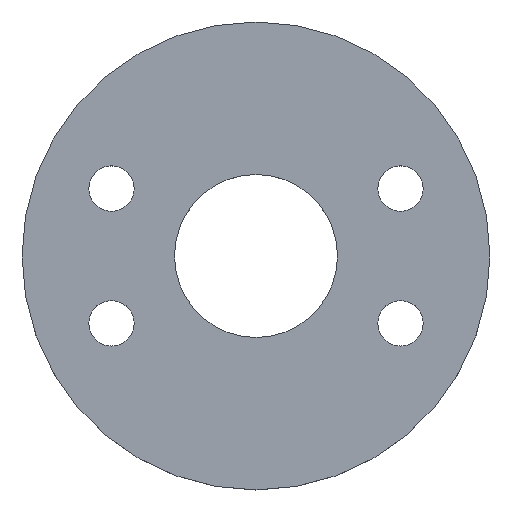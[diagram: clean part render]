
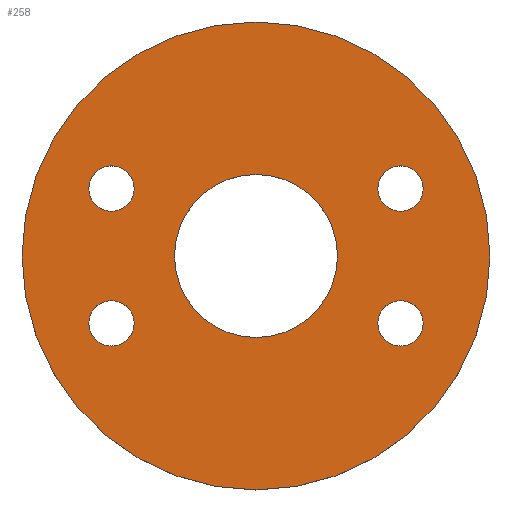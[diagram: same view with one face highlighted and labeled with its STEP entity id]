
A CAD part, top view. The second image highlights one B-rep face of the part: STEP entity #258.
In plain terms, the highlighted planar face has unit normal (0, 0, 1).
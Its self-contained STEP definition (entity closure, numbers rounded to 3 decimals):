
#2 = CARTESIAN_POINT ( 'NONE',  ( 143.664, -57.899, 15. ) ) ;
#4 = EDGE_LOOP ( 'NONE', ( #247, #315 ) ) ;
#14 = CIRCLE ( 'NONE', #201, 19.5 ) ;
#27 = ORIENTED_EDGE ( 'NONE', *, *, #439, .F. ) ;
#33 = VERTEX_POINT ( 'NONE', #350 ) ;
#35 = VERTEX_POINT ( 'NONE', #353 ) ;
#40 = CARTESIAN_POINT ( 'NONE',  ( 104.664, 57.899, 15. ) ) ;
#44 = VERTEX_POINT ( 'NONE', #197 ) ;
#52 = CARTESIAN_POINT ( 'NONE',  ( -124.164, 57.899, 15. ) ) ;
#56 = DIRECTION ( 'NONE',  ( 0., 0., 1. ) ) ;
#58 = DIRECTION ( 'NONE',  ( -1., 0., 0. ) ) ;
#61 = CARTESIAN_POINT ( 'NONE',  ( 124.164, 57.899, 15. ) ) ;
#62 = DIRECTION ( 'NONE',  ( 0., 0., 1. ) ) ;
#70 = CARTESIAN_POINT ( 'NONE',  ( 0., 0., 15. ) ) ;
#71 = CARTESIAN_POINT ( 'NONE',  ( -124.164, -57.899, 15. ) ) ;
#73 = DIRECTION ( 'NONE',  ( 1., 0., 0. ) ) ;
#85 = VERTEX_POINT ( 'NONE', #40 ) ;
#95 = CIRCLE ( 'NONE', #380, 19.5 ) ;
#98 = CIRCLE ( 'NONE', #338, 201. ) ;
#103 = CIRCLE ( 'NONE', #243, 19.5 ) ;
#115 = DIRECTION ( 'NONE',  ( 1., 0., 0. ) ) ;
#117 = CARTESIAN_POINT ( 'NONE',  ( 104.664, -57.899, 15. ) ) ;
#121 = DIRECTION ( 'NONE',  ( 0., 0., 1. ) ) ;
#125 = FACE_BOUND ( 'NONE', #395, .T. ) ;
#126 = CARTESIAN_POINT ( 'NONE',  ( -201., 0., 15. ) ) ;
#128 = AXIS2_PLACEMENT_3D ( 'NONE', #383, #279, #252 ) ;
#131 = FACE_BOUND ( 'NONE', #443, .T. ) ;
#141 = VERTEX_POINT ( 'NONE', #2 ) ;
#148 = ORIENTED_EDGE ( 'NONE', *, *, #313, .F. ) ;
#152 = DIRECTION ( 'NONE',  ( -1., 0., 0. ) ) ;
#153 = FACE_BOUND ( 'NONE', #503, .T. ) ;
#164 = CIRCLE ( 'NONE', #266, 19.5 ) ;
#168 = EDGE_CURVE ( 'NONE', #377, #420, #514, .T. ) ;
#172 = AXIS2_PLACEMENT_3D ( 'NONE', #189, #477, #152 ) ;
#178 = ORIENTED_EDGE ( 'NONE', *, *, #302, .F. ) ;
#182 = CIRCLE ( 'NONE', #466, 70. ) ;
#187 = ORIENTED_EDGE ( 'NONE', *, *, #223, .F. ) ;
#188 = DIRECTION ( 'NONE',  ( 0., 0., 1. ) ) ;
#189 = CARTESIAN_POINT ( 'NONE',  ( 124.164, -57.899, 15. ) ) ;
#191 = VERTEX_POINT ( 'NONE', #425 ) ;
#192 = VERTEX_POINT ( 'NONE', #296 ) ;
#197 = CARTESIAN_POINT ( 'NONE',  ( -104.664, 57.899, 15. ) ) ;
#201 = AXIS2_PLACEMENT_3D ( 'NONE', #245, #536, #271 ) ;
#204 = DIRECTION ( 'NONE',  ( -1., 0., 0. ) ) ;
#209 = ORIENTED_EDGE ( 'NONE', *, *, #288, .F. ) ;
#222 = EDGE_CURVE ( 'NONE', #192, #35, #164, .T. ) ;
#223 = EDGE_CURVE ( 'NONE', #191, #85, #103, .T. ) ;
#226 = CIRCLE ( 'NONE', #260, 70. ) ;
#233 = EDGE_CURVE ( 'NONE', #406, #44, #493, .T. ) ;
#239 = ORIENTED_EDGE ( 'NONE', *, *, #424, .F. ) ;
#243 = AXIS2_PLACEMENT_3D ( 'NONE', #61, #62, #345 ) ;
#245 = CARTESIAN_POINT ( 'NONE',  ( 124.164, -57.899, 15. ) ) ;
#247 = ORIENTED_EDGE ( 'NONE', *, *, #168, .T. ) ;
#252 = DIRECTION ( 'NONE',  ( 1., 0., 0. ) ) ;
#258 = ADVANCED_FACE ( 'NONE', ( #131, #540, #500, #125, #485, #153 ), #286, .T. ) ;
#260 = AXIS2_PLACEMENT_3D ( 'NONE', #440, #188, #398 ) ;
#266 = AXIS2_PLACEMENT_3D ( 'NONE', #367, #376, #379 ) ;
#271 = DIRECTION ( 'NONE',  ( -1., 0., 0. ) ) ;
#273 = EDGE_CURVE ( 'NONE', #35, #192, #95, .T. ) ;
#279 = DIRECTION ( 'NONE',  ( 0., 0., 1. ) ) ;
#286 = PLANE ( 'NONE',  #412 ) ;
#288 = EDGE_CURVE ( 'NONE', #85, #191, #300, .T. ) ;
#289 = CARTESIAN_POINT ( 'NONE',  ( 201., 0., 15. ) ) ;
#296 = CARTESIAN_POINT ( 'NONE',  ( -104.664, -57.899, 15. ) ) ;
#300 = CIRCLE ( 'NONE', #436, 19.5 ) ;
#302 = EDGE_CURVE ( 'NONE', #414, #33, #182, .T. ) ;
#304 = DIRECTION ( 'NONE',  ( 0., 0., 1. ) ) ;
#305 = DIRECTION ( 'NONE',  ( 1., 0., 0. ) ) ;
#313 = EDGE_CURVE ( 'NONE', #44, #406, #484, .T. ) ;
#315 = ORIENTED_EDGE ( 'NONE', *, *, #479, .T. ) ;
#322 = AXIS2_PLACEMENT_3D ( 'NONE', #52, #56, #58 ) ;
#323 = CARTESIAN_POINT ( 'NONE',  ( -70., 0., 15. ) ) ;
#325 = DIRECTION ( 'NONE',  ( 0., 0., 1. ) ) ;
#328 = DIRECTION ( 'NONE',  ( 0., 0., 1. ) ) ;
#329 = DIRECTION ( 'NONE',  ( 1., 0., 0. ) ) ;
#338 = AXIS2_PLACEMENT_3D ( 'NONE', #70, #363, #115 ) ;
#345 = DIRECTION ( 'NONE',  ( 1., 0., 0. ) ) ;
#350 = CARTESIAN_POINT ( 'NONE',  ( 70., 0., 15. ) ) ;
#353 = CARTESIAN_POINT ( 'NONE',  ( -143.664, -57.899, 15. ) ) ;
#363 = DIRECTION ( 'NONE',  ( 0., 0., 1. ) ) ;
#367 = CARTESIAN_POINT ( 'NONE',  ( -124.164, -57.899, 15. ) ) ;
#370 = CARTESIAN_POINT ( 'NONE',  ( 0., 0., 15. ) ) ;
#372 = ORIENTED_EDGE ( 'NONE', *, *, #273, .F. ) ;
#376 = DIRECTION ( 'NONE',  ( 0., 0., 1. ) ) ;
#377 = VERTEX_POINT ( 'NONE', #126 ) ;
#379 = DIRECTION ( 'NONE',  ( 1., 0., 0. ) ) ;
#380 = AXIS2_PLACEMENT_3D ( 'NONE', #71, #304, #305 ) ;
#383 = CARTESIAN_POINT ( 'NONE',  ( 0., 0., 15. ) ) ;
#386 = VERTEX_POINT ( 'NONE', #117 ) ;
#392 = DIRECTION ( 'NONE',  ( 1., 0., 0. ) ) ;
#394 = DIRECTION ( 'NONE',  ( 0., 0., 1. ) ) ;
#395 = EDGE_LOOP ( 'NONE', ( #187, #209 ) ) ;
#398 = DIRECTION ( 'NONE',  ( 1., 0., 0. ) ) ;
#406 = VERTEX_POINT ( 'NONE', #542 ) ;
#407 = ORIENTED_EDGE ( 'NONE', *, *, #233, .F. ) ;
#410 = CARTESIAN_POINT ( 'NONE',  ( 0., 0., 15. ) ) ;
#412 = AXIS2_PLACEMENT_3D ( 'NONE', #410, #394, #392 ) ;
#414 = VERTEX_POINT ( 'NONE', #323 ) ;
#417 = EDGE_CURVE ( 'NONE', #141, #386, #14, .T. ) ;
#418 = ORIENTED_EDGE ( 'NONE', *, *, #417, .F. ) ;
#420 = VERTEX_POINT ( 'NONE', #289 ) ;
#424 = EDGE_CURVE ( 'NONE', #386, #141, #464, .T. ) ;
#425 = CARTESIAN_POINT ( 'NONE',  ( 143.664, 57.899, 15. ) ) ;
#434 = ORIENTED_EDGE ( 'NONE', *, *, #222, .F. ) ;
#436 = AXIS2_PLACEMENT_3D ( 'NONE', #459, #325, #329 ) ;
#439 = EDGE_CURVE ( 'NONE', #33, #414, #226, .T. ) ;
#440 = CARTESIAN_POINT ( 'NONE',  ( 0., 0., 15. ) ) ;
#443 = EDGE_LOOP ( 'NONE', ( #148, #407 ) ) ;
#456 = CARTESIAN_POINT ( 'NONE',  ( -124.164, 57.899, 15. ) ) ;
#459 = CARTESIAN_POINT ( 'NONE',  ( 124.164, 57.899, 15. ) ) ;
#464 = CIRCLE ( 'NONE', #172, 19.5 ) ;
#466 = AXIS2_PLACEMENT_3D ( 'NONE', #370, #121, #73 ) ;
#477 = DIRECTION ( 'NONE',  ( 0., 0., 1. ) ) ;
#479 = EDGE_CURVE ( 'NONE', #420, #377, #98, .T. ) ;
#484 = CIRCLE ( 'NONE', #487, 19.5 ) ;
#485 = FACE_OUTER_BOUND ( 'NONE', #4, .T. ) ;
#487 = AXIS2_PLACEMENT_3D ( 'NONE', #456, #328, #204 ) ;
#493 = CIRCLE ( 'NONE', #322, 19.5 ) ;
#495 = EDGE_LOOP ( 'NONE', ( #418, #239 ) ) ;
#500 = FACE_BOUND ( 'NONE', #495, .T. ) ;
#503 = EDGE_LOOP ( 'NONE', ( #178, #27 ) ) ;
#514 = CIRCLE ( 'NONE', #128, 201. ) ;
#535 = EDGE_LOOP ( 'NONE', ( #434, #372 ) ) ;
#536 = DIRECTION ( 'NONE',  ( 0., 0., 1. ) ) ;
#540 = FACE_BOUND ( 'NONE', #535, .T. ) ;
#542 = CARTESIAN_POINT ( 'NONE',  ( -143.664, 57.899, 15. ) ) ;
